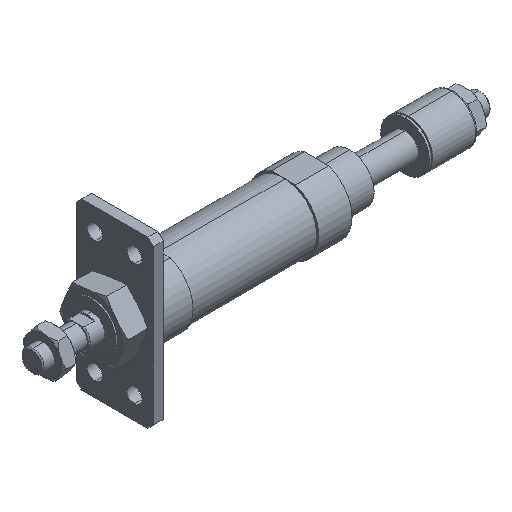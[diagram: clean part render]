
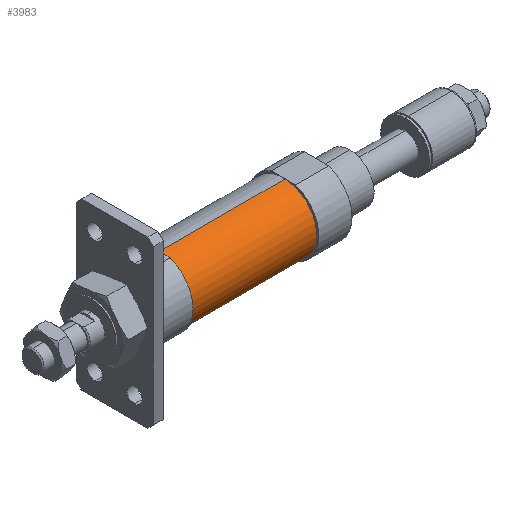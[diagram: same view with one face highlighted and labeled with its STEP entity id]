
A CAD part, isometric view. The second image highlights one B-rep face of the part: STEP entity #3983.
In plain terms, the highlighted cylindrical face has radius 15 mm (diameter 30 mm), a partial arc.
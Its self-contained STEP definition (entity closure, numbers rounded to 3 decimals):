
#99 = EDGE_LOOP ( 'NONE', ( #4095, #5203, #2606, #2900 ) ) ;
#121 = LINE ( 'NONE', #4245, #2572 ) ;
#151 = CARTESIAN_POINT ( 'NONE',  ( 28.5, 0., 0. ) ) ;
#257 = CARTESIAN_POINT ( 'NONE',  ( 28.5, 0., 0. ) ) ;
#341 = VERTEX_POINT ( 'NONE', #4610 ) ;
#440 = AXIS2_PLACEMENT_3D ( 'NONE', #3370, #3948, #1618 ) ;
#600 = CARTESIAN_POINT ( 'NONE',  ( 28.5, 0., -15. ) ) ;
#777 = DIRECTION ( 'NONE',  ( 0., 0., 1. ) ) ;
#818 = DIRECTION ( 'NONE',  ( 1., 0., 0. ) ) ;
#926 = CARTESIAN_POINT ( 'NONE',  ( 28.5, 0., -15. ) ) ;
#966 = VERTEX_POINT ( 'NONE', #3284 ) ;
#1535 = VERTEX_POINT ( 'NONE', #2175 ) ;
#1585 = AXIS2_PLACEMENT_3D ( 'NONE', #257, #1909, #777 ) ;
#1618 = DIRECTION ( 'NONE',  ( 0., 0., -1. ) ) ;
#1909 = DIRECTION ( 'NONE',  ( -1., 0., 0. ) ) ;
#2175 = CARTESIAN_POINT ( 'NONE',  ( -28.5, 0., -15. ) ) ;
#2176 = AXIS2_PLACEMENT_3D ( 'NONE', #151, #818, #3599 ) ;
#2362 = CIRCLE ( 'NONE', #440, 15. ) ;
#2517 = EDGE_CURVE ( 'NONE', #341, #1535, #2362, .T. ) ;
#2572 = VECTOR ( 'NONE', #3395, 1000. ) ;
#2606 = ORIENTED_EDGE ( 'NONE', *, *, #4118, .T. ) ;
#2900 = ORIENTED_EDGE ( 'NONE', *, *, #2517, .T. ) ;
#3038 = EDGE_CURVE ( 'NONE', #966, #4268, #4820, .T. ) ;
#3284 = CARTESIAN_POINT ( 'NONE',  ( 28.5, 0., 15. ) ) ;
#3292 = LINE ( 'NONE', #926, #5156 ) ;
#3370 = CARTESIAN_POINT ( 'NONE',  ( -28.5, 0., 0. ) ) ;
#3395 = DIRECTION ( 'NONE',  ( -1., 0., 0. ) ) ;
#3599 = DIRECTION ( 'NONE',  ( 0., 0., -1. ) ) ;
#3735 = EDGE_CURVE ( 'NONE', #4268, #1535, #3292, .T. ) ;
#3948 = DIRECTION ( 'NONE',  ( 1., 0., 0. ) ) ;
#3983 = ADVANCED_FACE ( 'NONE', ( #4417 ), #4055, .T. ) ;
#4055 = CYLINDRICAL_SURFACE ( 'NONE', #1585, 15. ) ;
#4095 = ORIENTED_EDGE ( 'NONE', *, *, #3735, .F. ) ;
#4118 = EDGE_CURVE ( 'NONE', #966, #341, #121, .T. ) ;
#4138 = DIRECTION ( 'NONE',  ( -1., 0., 0. ) ) ;
#4245 = CARTESIAN_POINT ( 'NONE',  ( 28.5, 0., 15. ) ) ;
#4268 = VERTEX_POINT ( 'NONE', #600 ) ;
#4417 = FACE_OUTER_BOUND ( 'NONE', #99, .T. ) ;
#4610 = CARTESIAN_POINT ( 'NONE',  ( -28.5, 0., 15. ) ) ;
#4820 = CIRCLE ( 'NONE', #2176, 15. ) ;
#5156 = VECTOR ( 'NONE', #4138, 1000. ) ;
#5203 = ORIENTED_EDGE ( 'NONE', *, *, #3038, .F. ) ;
